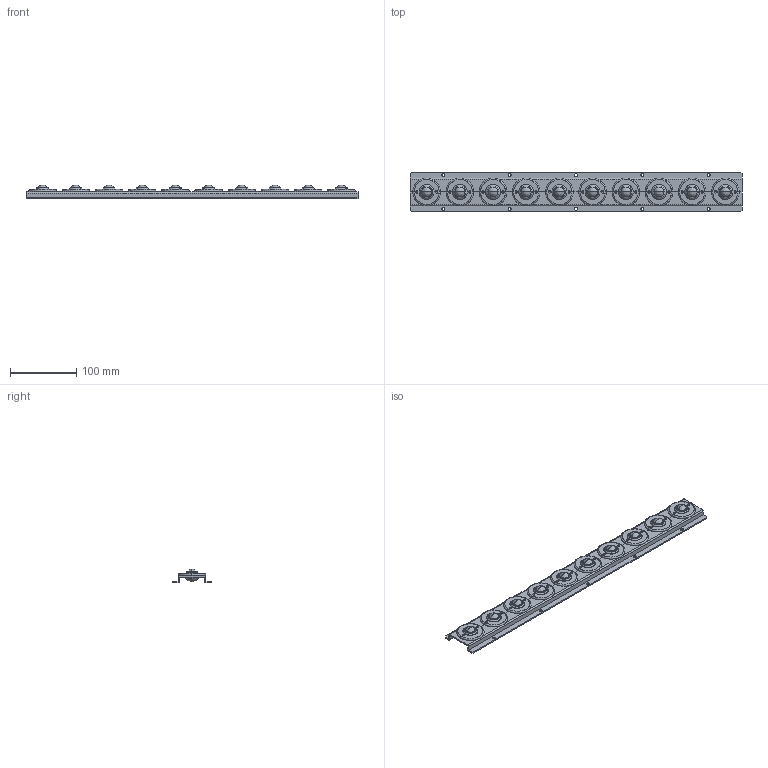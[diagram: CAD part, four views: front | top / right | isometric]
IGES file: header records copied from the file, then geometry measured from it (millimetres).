
Global section: file name: E:\UnigraphicsGraphicData\MISUMI_PRESS-PARTS\IGES\3d_goro-10_03800_r00.igs; native system: NX V5.0; preprocessor: UGS NX IGES V5.0; author: MISUMI; date: 20110105.160718; units: millimetre
Bounding box: 500 x 59 x 21 mm (x, y, z)
Surface area: 87487.5 mm2 (no closed solid volume)
Topology: 0 solids, 0 shells, 264 faces, 2100 edges, 2060 vertices
Faces by surface type: bspline 264
